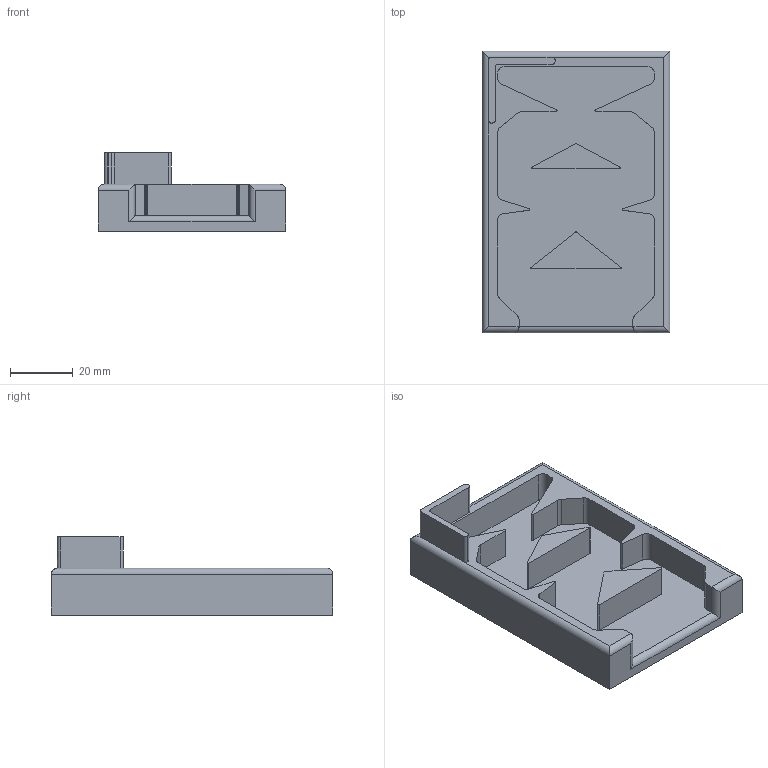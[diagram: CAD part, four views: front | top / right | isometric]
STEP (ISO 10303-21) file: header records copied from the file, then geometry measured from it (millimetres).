
FILE_DESCRIPTION(/* description */ ('STEP AP242 Edition 2','CAx-IF Rec.Pracs.---Representation and Presentation of Product Manufacturing Information (PMI)---4.0---2014-10-13','CAx-IF Rec.Pracs.---3D Tessellated Geometry---0.4---2014-09-14','2;1','CAx-IF Rec.Pracs.---User Defined Attributes---1.5---2016-08-15'),/* implementation_level */ '2;1');
FILE_NAME(/* name */ 'Assembly 1 - Part 15',/* time_stamp */ '2026-10-18T18:48:31Z',/* author */ (''),/* organization */ (''),/* preprocessor_version */ 'ST-DEVELOPER v20',/* originating_system */ 'ONSHAPE BY PTC INC, 1.222',/* authorisation */ ' ');
FILE_SCHEMA (('AP242_MANAGED_MODEL_BASED_3D_ENGINEERING_MIM_LF { 1 0 10303 442 3 1 4 }'));
Length unit declared in the file: metre
Products named in the file (1): Part 15
Bounding box: 60 x 90 x 25 mm (x, y, z)
Volume: 46043.7 mm3; surface area: 19826.5 mm2
Topology: 1 solids, 1 shells, 83 faces, 227 edges, 148 vertices
Faces by surface type: plane 43, cylinder 40
Entity records: 2656 total; most frequent: CARTESIAN_POINT 465, DIRECTION 464, ORIENTED_EDGE 454, EDGE_CURVE 227, AXIS2_PLACEMENT_3D 155, LINE 154, VECTOR 154, VERTEX_POINT 148
